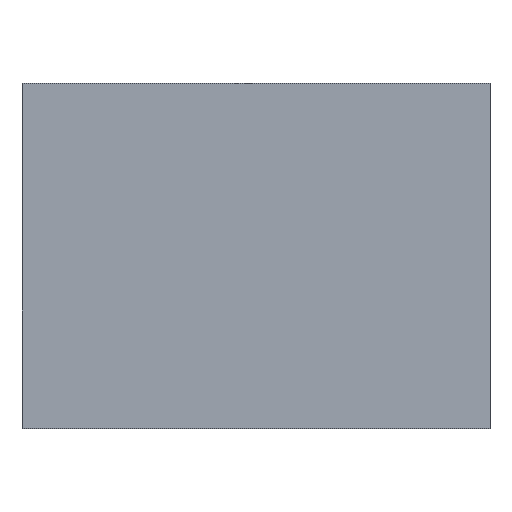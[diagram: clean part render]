
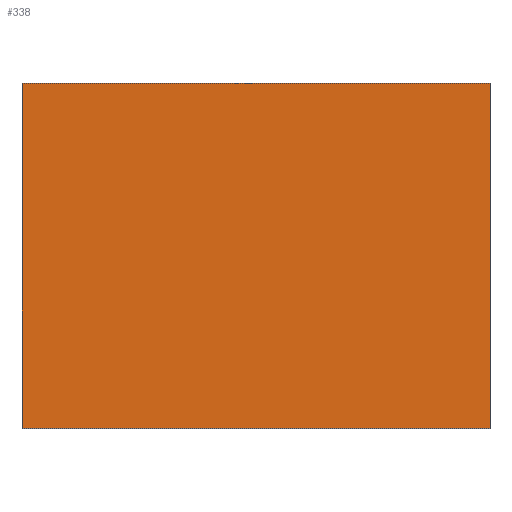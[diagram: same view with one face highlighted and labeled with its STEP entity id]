
A CAD part, top view. The second image highlights one B-rep face of the part: STEP entity #338.
In plain terms, the highlighted planar face has unit normal (0, 0, 1).
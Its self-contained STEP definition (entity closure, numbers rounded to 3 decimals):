
#24 = VERTEX_POINT('',#25);
#25 = CARTESIAN_POINT('',(468.,-28.,-3.));
#32 = PLANE('',#33);
#33 = AXIS2_PLACEMENT_3D('',#34,#35,#36);
#34 = CARTESIAN_POINT('',(468.,-28.,-28.));
#35 = DIRECTION('',(1.,0.,0.));
#36 = DIRECTION('',(0.,0.,1.));
#44 = PLANE('',#45);
#45 = AXIS2_PLACEMENT_3D('',#46,#47,#48);
#46 = CARTESIAN_POINT('',(468.,-28.,-28.));
#47 = DIRECTION('',(0.,1.,0.));
#48 = DIRECTION('',(0.,0.,1.));
#85 = VERTEX_POINT('',#86);
#86 = CARTESIAN_POINT('',(468.,28.,-3.));
#100 = PLANE('',#101);
#101 = AXIS2_PLACEMENT_3D('',#102,#103,#104);
#102 = CARTESIAN_POINT('',(468.,28.,-28.));
#103 = DIRECTION('',(0.,1.,0.));
#104 = DIRECTION('',(0.,0.,1.));
#112 = EDGE_CURVE('',#24,#85,#113,.T.);
#113 = SURFACE_CURVE('',#114,(#118,#125),.PCURVE_S1.);
#114 = LINE('',#115,#116);
#115 = CARTESIAN_POINT('',(468.,-28.,-3.));
#116 = VECTOR('',#117,1.);
#117 = DIRECTION('',(0.,1.,0.));
#118 = PCURVE('',#32,#119);
#119 = DEFINITIONAL_REPRESENTATION('',(#120),#124);
#120 = LINE('',#121,#122);
#121 = CARTESIAN_POINT('',(25.,0.));
#122 = VECTOR('',#123,1.);
#123 = DIRECTION('',(0.,-1.));
#124 = ( GEOMETRIC_REPRESENTATION_CONTEXT(2) 
PARAMETRIC_REPRESENTATION_CONTEXT() REPRESENTATION_CONTEXT('2D SPACE',''
  ) );
#125 = PCURVE('',#126,#131);
#126 = PLANE('',#127);
#127 = AXIS2_PLACEMENT_3D('',#128,#129,#130);
#128 = CARTESIAN_POINT('',(468.,-28.,-3.));
#129 = DIRECTION('',(0.,0.,1.));
#130 = DIRECTION('',(1.,0.,0.));
#131 = DEFINITIONAL_REPRESENTATION('',(#132),#136);
#132 = LINE('',#133,#134);
#133 = CARTESIAN_POINT('',(0.,0.));
#134 = VECTOR('',#135,1.);
#135 = DIRECTION('',(0.,1.));
#136 = ( GEOMETRIC_REPRESENTATION_CONTEXT(2) 
PARAMETRIC_REPRESENTATION_CONTEXT() REPRESENTATION_CONTEXT('2D SPACE',''
  ) );
#144 = VERTEX_POINT('',#145);
#145 = CARTESIAN_POINT('',(544.,-28.,-3.));
#152 = PLANE('',#153);
#153 = AXIS2_PLACEMENT_3D('',#154,#155,#156);
#154 = CARTESIAN_POINT('',(544.,-28.,-28.));
#155 = DIRECTION('',(1.,0.,0.));
#156 = DIRECTION('',(0.,0.,1.));
#195 = VERTEX_POINT('',#196);
#196 = CARTESIAN_POINT('',(544.,28.,-3.));
#217 = EDGE_CURVE('',#144,#195,#218,.T.);
#218 = SURFACE_CURVE('',#219,(#223,#230),.PCURVE_S1.);
#219 = LINE('',#220,#221);
#220 = CARTESIAN_POINT('',(544.,-28.,-3.));
#221 = VECTOR('',#222,1.);
#222 = DIRECTION('',(0.,1.,0.));
#223 = PCURVE('',#152,#224);
#224 = DEFINITIONAL_REPRESENTATION('',(#225),#229);
#225 = LINE('',#226,#227);
#226 = CARTESIAN_POINT('',(25.,0.));
#227 = VECTOR('',#228,1.);
#228 = DIRECTION('',(0.,-1.));
#229 = ( GEOMETRIC_REPRESENTATION_CONTEXT(2) 
PARAMETRIC_REPRESENTATION_CONTEXT() REPRESENTATION_CONTEXT('2D SPACE',''
  ) );
#230 = PCURVE('',#126,#231);
#231 = DEFINITIONAL_REPRESENTATION('',(#232),#236);
#232 = LINE('',#233,#234);
#233 = CARTESIAN_POINT('',(76.,0.));
#234 = VECTOR('',#235,1.);
#235 = DIRECTION('',(0.,1.));
#236 = ( GEOMETRIC_REPRESENTATION_CONTEXT(2) 
PARAMETRIC_REPRESENTATION_CONTEXT() REPRESENTATION_CONTEXT('2D SPACE',''
  ) );
#263 = EDGE_CURVE('',#24,#144,#264,.T.);
#264 = SURFACE_CURVE('',#265,(#269,#276),.PCURVE_S1.);
#265 = LINE('',#266,#267);
#266 = CARTESIAN_POINT('',(468.,-28.,-3.));
#267 = VECTOR('',#268,1.);
#268 = DIRECTION('',(1.,0.,0.));
#269 = PCURVE('',#44,#270);
#270 = DEFINITIONAL_REPRESENTATION('',(#271),#275);
#271 = LINE('',#272,#273);
#272 = CARTESIAN_POINT('',(25.,0.));
#273 = VECTOR('',#274,1.);
#274 = DIRECTION('',(0.,1.));
#275 = ( GEOMETRIC_REPRESENTATION_CONTEXT(2) 
PARAMETRIC_REPRESENTATION_CONTEXT() REPRESENTATION_CONTEXT('2D SPACE',''
  ) );
#276 = PCURVE('',#126,#277);
#277 = DEFINITIONAL_REPRESENTATION('',(#278),#282);
#278 = LINE('',#279,#280);
#279 = CARTESIAN_POINT('',(0.,0.));
#280 = VECTOR('',#281,1.);
#281 = DIRECTION('',(1.,0.));
#282 = ( GEOMETRIC_REPRESENTATION_CONTEXT(2) 
PARAMETRIC_REPRESENTATION_CONTEXT() REPRESENTATION_CONTEXT('2D SPACE',''
  ) );
#310 = EDGE_CURVE('',#85,#195,#311,.T.);
#311 = SURFACE_CURVE('',#312,(#316,#323),.PCURVE_S1.);
#312 = LINE('',#313,#314);
#313 = CARTESIAN_POINT('',(468.,28.,-3.));
#314 = VECTOR('',#315,1.);
#315 = DIRECTION('',(1.,0.,0.));
#316 = PCURVE('',#100,#317);
#317 = DEFINITIONAL_REPRESENTATION('',(#318),#322);
#318 = LINE('',#319,#320);
#319 = CARTESIAN_POINT('',(25.,0.));
#320 = VECTOR('',#321,1.);
#321 = DIRECTION('',(0.,1.));
#322 = ( GEOMETRIC_REPRESENTATION_CONTEXT(2) 
PARAMETRIC_REPRESENTATION_CONTEXT() REPRESENTATION_CONTEXT('2D SPACE',''
  ) );
#323 = PCURVE('',#126,#324);
#324 = DEFINITIONAL_REPRESENTATION('',(#325),#329);
#325 = LINE('',#326,#327);
#326 = CARTESIAN_POINT('',(0.,56.));
#327 = VECTOR('',#328,1.);
#328 = DIRECTION('',(1.,0.));
#329 = ( GEOMETRIC_REPRESENTATION_CONTEXT(2) 
PARAMETRIC_REPRESENTATION_CONTEXT() REPRESENTATION_CONTEXT('2D SPACE',''
  ) );
#338 = ADVANCED_FACE('',(#339),#126,.T.);
#339 = FACE_BOUND('',#340,.T.);
#340 = EDGE_LOOP('',(#341,#342,#343,#344));
#341 = ORIENTED_EDGE('',*,*,#112,.F.);
#342 = ORIENTED_EDGE('',*,*,#263,.T.);
#343 = ORIENTED_EDGE('',*,*,#217,.T.);
#344 = ORIENTED_EDGE('',*,*,#310,.F.);
